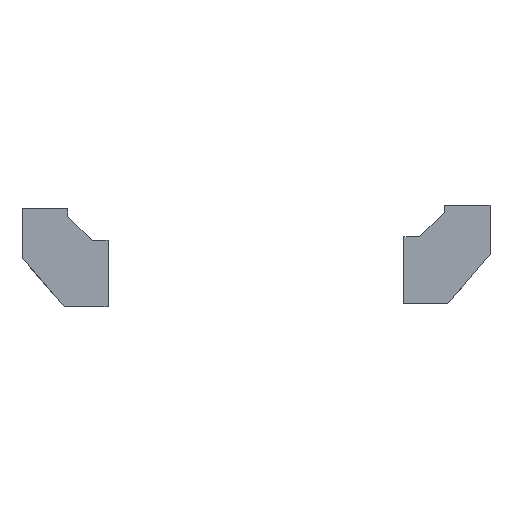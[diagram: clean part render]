
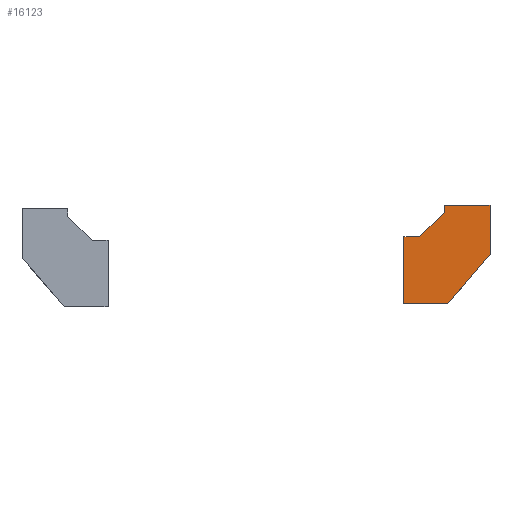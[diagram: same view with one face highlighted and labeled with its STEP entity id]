
A CAD part, left-side view. The second image highlights one B-rep face of the part: STEP entity #16123.
In plain terms, the highlighted planar face has unit normal (-1, 0, 0).
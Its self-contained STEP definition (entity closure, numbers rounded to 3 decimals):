
#79 = DIRECTION ( 'NONE',  ( 0., -1., 0. ) ) ;
#531 = VERTEX_POINT ( 'NONE', #17012 ) ;
#835 = VECTOR ( 'NONE', #79, 1000. ) ;
#989 = VECTOR ( 'NONE', #17519, 1000. ) ;
#1077 = ORIENTED_EDGE ( 'NONE', *, *, #18198, .T. ) ;
#1109 = ORIENTED_EDGE ( 'NONE', *, *, #12632, .T. ) ;
#1124 = ORIENTED_EDGE ( 'NONE', *, *, #25324, .T. ) ;
#1374 = CARTESIAN_POINT ( 'NONE',  ( -100., -107.2, 87.75 ) ) ;
#1382 = LINE ( 'NONE', #22371, #18476 ) ;
#1872 = DIRECTION ( 'NONE',  ( 0., 0., 1. ) ) ;
#2488 = EDGE_CURVE ( 'NONE', #3723, #4327, #4034, .T. ) ;
#2522 = EDGE_CURVE ( 'NONE', #14642, #10365, #1382, .T. ) ;
#2643 = CARTESIAN_POINT ( 'NONE',  ( -100., -133.2, 59.75 ) ) ;
#3149 = EDGE_LOOP ( 'NONE', ( #15664, #1109, #15975, #17268, #25547, #1077, #25271, #1124 ) ) ;
#3449 = CARTESIAN_POINT ( 'NONE',  ( -100., -107.2, 83.25 ) ) ;
#3723 = VERTEX_POINT ( 'NONE', #19821 ) ;
#3812 = LINE ( 'NONE', #22948, #26913 ) ;
#4034 = LINE ( 'NONE', #1374, #18812 ) ;
#4327 = VERTEX_POINT ( 'NONE', #5903 ) ;
#5449 = FACE_OUTER_BOUND ( 'NONE', #3149, .T. ) ;
#5725 = DIRECTION ( 'NONE',  ( 0., 0., -1. ) ) ;
#5903 = CARTESIAN_POINT ( 'NONE',  ( -100., -107.2, 83.25 ) ) ;
#6631 = DIRECTION ( 'NONE',  ( 0., 0., -1. ) ) ;
#7559 = CARTESIAN_POINT ( 'NONE',  ( -100., -133.2, 87.75 ) ) ;
#7920 = LINE ( 'NONE', #7559, #989 ) ;
#8994 = PLANE ( 'NONE',  #19661 ) ;
#10314 = VERTEX_POINT ( 'NONE', #25902 ) ;
#10365 = VERTEX_POINT ( 'NONE', #25799 ) ;
#10432 = CARTESIAN_POINT ( 'NONE',  ( -100., -109.2, 31.75 ) ) ;
#10700 = LINE ( 'NONE', #3449, #12331 ) ;
#10874 = DIRECTION ( 'NONE',  ( -1., 0., 0. ) ) ;
#11628 = EDGE_CURVE ( 'NONE', #16162, #531, #18495, .T. ) ;
#12331 = VECTOR ( 'NONE', #24653, 1000. ) ;
#12632 = EDGE_CURVE ( 'NONE', #531, #3723, #7920, .T. ) ;
#12735 = DIRECTION ( 'NONE',  ( 0., 0., -1. ) ) ;
#13189 = VECTOR ( 'NONE', #25149, 1000. ) ;
#13540 = CARTESIAN_POINT ( 'NONE',  ( -100., -109.2, 31.75 ) ) ;
#13669 = LINE ( 'NONE', #14961, #835 ) ;
#14642 = VERTEX_POINT ( 'NONE', #26507 ) ;
#14961 = CARTESIAN_POINT ( 'NONE',  ( -100., -84.2, 31.75 ) ) ;
#15561 = VERTEX_POINT ( 'NONE', #13540 ) ;
#15664 = ORIENTED_EDGE ( 'NONE', *, *, #11628, .T. ) ;
#15975 = ORIENTED_EDGE ( 'NONE', *, *, #2488, .T. ) ;
#15996 = EDGE_CURVE ( 'NONE', #10314, #15561, #13669, .T. ) ;
#16123 = ADVANCED_FACE ( 'NONE', ( #5449 ), #8994, .T. ) ;
#16162 = VERTEX_POINT ( 'NONE', #2643 ) ;
#17012 = CARTESIAN_POINT ( 'NONE',  ( -100., -133.2, 87.75 ) ) ;
#17268 = ORIENTED_EDGE ( 'NONE', *, *, #23961, .T. ) ;
#17519 = DIRECTION ( 'NONE',  ( 0., 1., 0. ) ) ;
#18198 = EDGE_CURVE ( 'NONE', #10365, #10314, #3812, .T. ) ;
#18476 = VECTOR ( 'NONE', #22464, 1000. ) ;
#18495 = LINE ( 'NONE', #26863, #21818 ) ;
#18766 = LINE ( 'NONE', #10432, #13189 ) ;
#18812 = VECTOR ( 'NONE', #5725, 1000. ) ;
#19661 = AXIS2_PLACEMENT_3D ( 'NONE', #23654, #10874, #6631 ) ;
#19821 = CARTESIAN_POINT ( 'NONE',  ( -100., -107.2, 87.75 ) ) ;
#21818 = VECTOR ( 'NONE', #1872, 1000. ) ;
#22371 = CARTESIAN_POINT ( 'NONE',  ( -100., -93.2, 69.75 ) ) ;
#22464 = DIRECTION ( 'NONE',  ( 0., 1., 0. ) ) ;
#22948 = CARTESIAN_POINT ( 'NONE',  ( -100., -84.2, 69.75 ) ) ;
#23654 = CARTESIAN_POINT ( 'NONE',  ( -100., -133.2, 69.75 ) ) ;
#23961 = EDGE_CURVE ( 'NONE', #4327, #14642, #10700, .T. ) ;
#24653 = DIRECTION ( 'NONE',  ( 0., 0.72, -0.694 ) ) ;
#25149 = DIRECTION ( 'NONE',  ( 0., -0.651, 0.759 ) ) ;
#25271 = ORIENTED_EDGE ( 'NONE', *, *, #15996, .T. ) ;
#25324 = EDGE_CURVE ( 'NONE', #15561, #16162, #18766, .T. ) ;
#25547 = ORIENTED_EDGE ( 'NONE', *, *, #2522, .T. ) ;
#25799 = CARTESIAN_POINT ( 'NONE',  ( -100., -84.2, 69.75 ) ) ;
#25902 = CARTESIAN_POINT ( 'NONE',  ( -100., -84.2, 31.75 ) ) ;
#26507 = CARTESIAN_POINT ( 'NONE',  ( -100., -93.2, 69.75 ) ) ;
#26863 = CARTESIAN_POINT ( 'NONE',  ( -100., -133.2, 59.75 ) ) ;
#26913 = VECTOR ( 'NONE', #12735, 1000. ) ;
